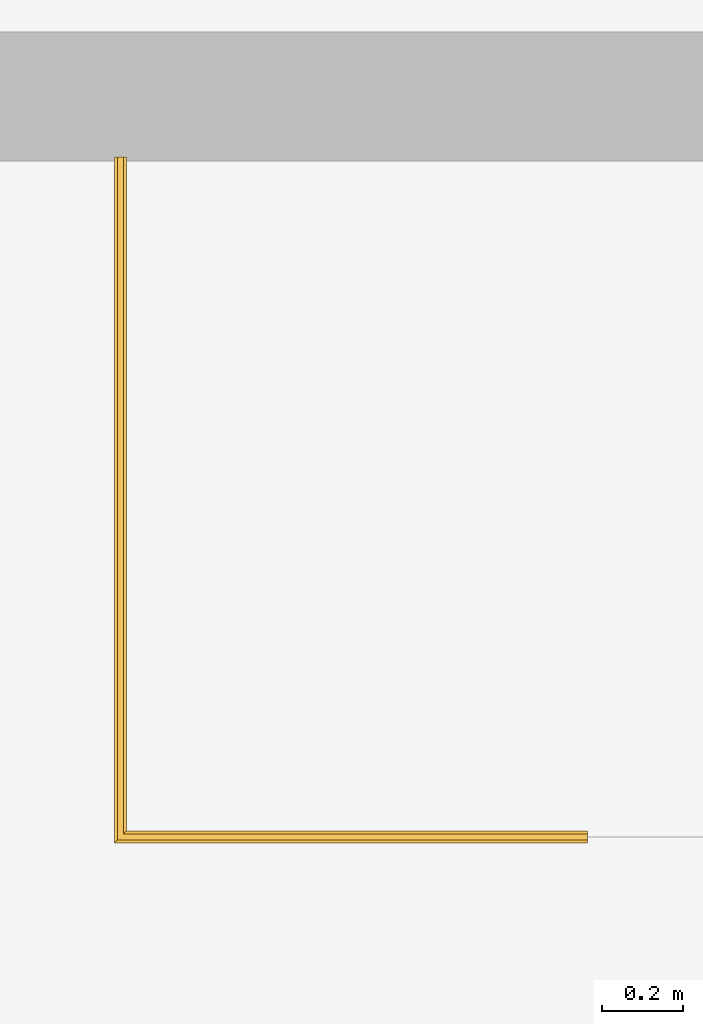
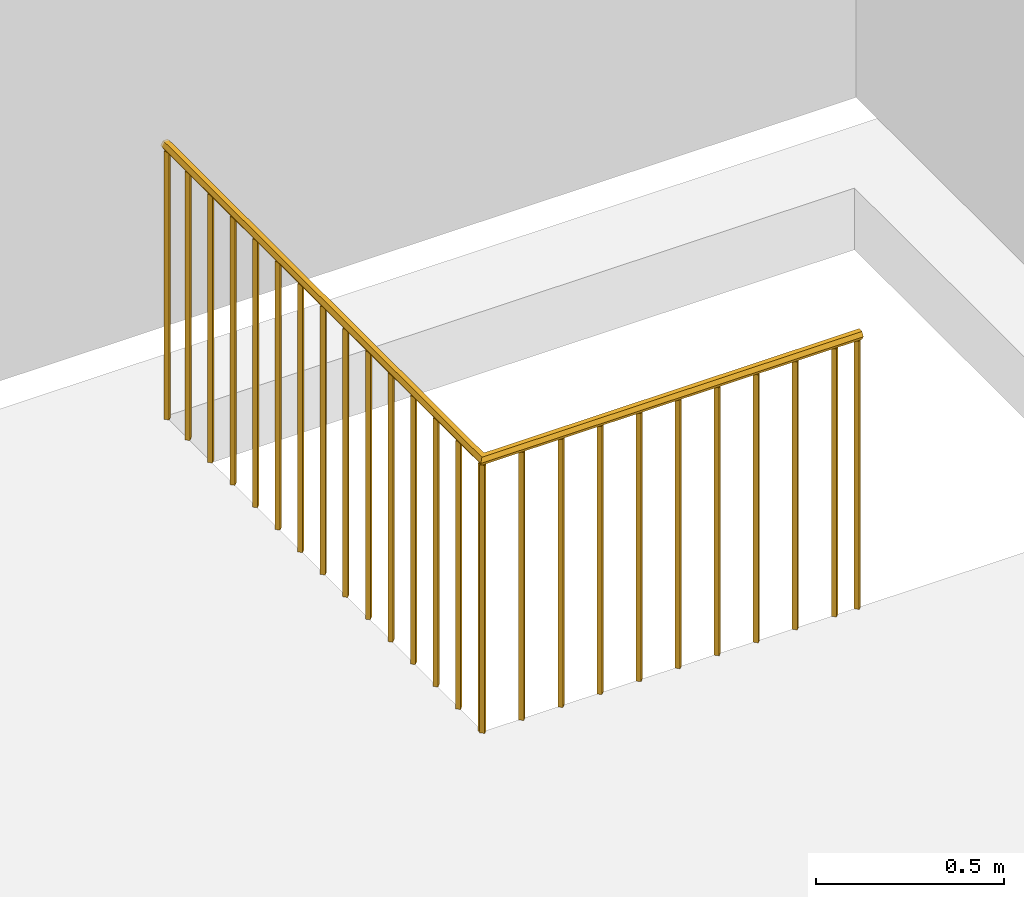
# One storey, part 2 of 3: 1 railing.
"""IFC2X3 building model written with IfcOpenShell, lengths in millimetres."""

from ifc_helpers import new_model, entity, si_unit, converted_unit, derived_unit, direction, frame, origin, place, context, subcontext, project, spatial, faceted_brep, material, material_list, element, save


model = new_model("IFC2X3")

# Units and contexts
model_context = context("Model", 3, precision=0.01, world=origin(), true_north=direction((6.123031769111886e-17, 1.0)))
body_context = subcontext(model_context, "Body", "Model", "MODEL_VIEW")
ifc_project = project(units=[si_unit("LENGTHUNIT", "METRE", prefix="MILLI"), si_unit("AREAUNIT", "SQUARE_METRE"), si_unit("VOLUMEUNIT", "CUBIC_METRE"), converted_unit("PLANEANGLEUNIT", "DEGREE", entity("IfcRatioMeasure", 0.017453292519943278), si_unit("PLANEANGLEUNIT", "RADIAN"), dimensions=[0, 0, 0, 0, 0, 0, 0]), si_unit("MASSUNIT", "GRAM", prefix="KILO"), derived_unit("MASSDENSITYUNIT", [(si_unit("MASSUNIT", "GRAM", prefix="KILO"), 1), (si_unit("LENGTHUNIT", "METRE"), -3)]), derived_unit("IONCONCENTRATIONUNIT", [(si_unit("MASSUNIT", "GRAM", prefix="KILO"), 1), (si_unit("LENGTHUNIT", "METRE"), -3)]), derived_unit("MOMENTOFINERTIAUNIT", [(si_unit("LENGTHUNIT", "METRE"), 4)]), si_unit("TIMEUNIT", "SECOND"), si_unit("FREQUENCYUNIT", "HERTZ"), si_unit("THERMODYNAMICTEMPERATUREUNIT", "DEGREE_CELSIUS"), derived_unit("THERMALTRANSMITTANCEUNIT", [(si_unit("MASSUNIT", "GRAM", prefix="KILO"), 1), (si_unit("THERMODYNAMICTEMPERATUREUNIT", "KELVIN"), -1), (si_unit("TIMEUNIT", "SECOND"), -3)]), derived_unit("THERMALCONDUCTANCEUNIT", [(si_unit("MASSUNIT", "GRAM", prefix="KILO"), 1), (si_unit("THERMODYNAMICTEMPERATUREUNIT", "KELVIN"), -1), (si_unit("TIMEUNIT", "SECOND"), -3), (si_unit("LENGTHUNIT", "METRE"), 1)]), derived_unit("VOLUMETRICFLOWRATEUNIT", [(si_unit("LENGTHUNIT", "METRE"), 3), (si_unit("TIMEUNIT", "SECOND"), -1)]), derived_unit("MASSFLOWRATEUNIT", [(si_unit("MASSUNIT", "GRAM", prefix="KILO"), 1), (si_unit("TIMEUNIT", "SECOND"), -1)]), derived_unit("ROTATIONALFREQUENCYUNIT", [(si_unit("TIMEUNIT", "SECOND"), -1)]), si_unit("ELECTRICCURRENTUNIT", "AMPERE"), si_unit("ELECTRICVOLTAGEUNIT", "VOLT"), si_unit("POWERUNIT", "WATT"), si_unit("FORCEUNIT", "NEWTON", prefix="KILO"), si_unit("ILLUMINANCEUNIT", "LUX"), si_unit("LUMINOUSFLUXUNIT", "LUMEN"), si_unit("LUMINOUSINTENSITYUNIT", "CANDELA"), derived_unit("USERDEFINED", [(si_unit("MASSUNIT", "GRAM", prefix="KILO"), -1), (si_unit("LENGTHUNIT", "METRE"), -2), (si_unit("TIMEUNIT", "SECOND"), 3), (si_unit("LUMINOUSFLUXUNIT", "LUMEN"), 1)]), derived_unit("USERDEFINED", [(si_unit("MASSUNIT", "GRAM", prefix="KILO"), 1), (si_unit("TIMEUNIT", "SECOND"), -3), (si_unit("LENGTHUNIT", "METRE"), 3), (si_unit("ELECTRICCURRENTUNIT", "AMPERE"), -2)]), derived_unit("SOUNDPOWERUNIT", [(si_unit("MASSUNIT", "GRAM", prefix="KILO"), 1), (si_unit("TIMEUNIT", "SECOND"), -3), (si_unit("LENGTHUNIT", "METRE"), 2)]), derived_unit("SOUNDPRESSUREUNIT", [(si_unit("MASSUNIT", "GRAM", prefix="KILO"), 1), (si_unit("LENGTHUNIT", "METRE"), -1), (si_unit("TIMEUNIT", "SECOND"), -2)]), derived_unit("LINEARVELOCITYUNIT", [(si_unit("LENGTHUNIT", "METRE"), 1), (si_unit("TIMEUNIT", "SECOND"), -1)]), si_unit("PRESSUREUNIT", "PASCAL"), derived_unit("USERDEFINED", [(si_unit("MASSUNIT", "GRAM", prefix="KILO"), 1), (si_unit("LENGTHUNIT", "METRE"), -2), (si_unit("TIMEUNIT", "SECOND"), -2)]), derived_unit("LINEARFORCEUNIT", [(si_unit("MASSUNIT", "GRAM", prefix="KILO"), 1), (si_unit("TIMEUNIT", "SECOND"), -2)]), derived_unit("PLANARFORCEUNIT", [(si_unit("MASSUNIT", "GRAM", prefix="KILO"), 1), (si_unit("LENGTHUNIT", "METRE"), -1), (si_unit("TIMEUNIT", "SECOND"), -2)]), derived_unit("SPECIFICHEATCAPACITYUNIT", [(si_unit("THERMODYNAMICTEMPERATUREUNIT", "KELVIN"), -1), (si_unit("LENGTHUNIT", "METRE"), 2), (si_unit("TIMEUNIT", "SECOND"), -2)]), derived_unit("HEATINGVALUEUNIT", [(si_unit("LENGTHUNIT", "METRE"), 2), (si_unit("TIMEUNIT", "SECOND"), -2)]), derived_unit("VAPORPERMEABILITYUNIT", [(si_unit("LENGTHUNIT", "METRE"), -1), (si_unit("TIMEUNIT", "SECOND"), 1)]), derived_unit("DYNAMICVISCOSITYUNIT", [(si_unit("MASSUNIT", "GRAM", prefix="KILO"), 1), (si_unit("TIMEUNIT", "SECOND"), -1), (si_unit("LENGTHUNIT", "METRE"), -1)]), derived_unit("THERMALEXPANSIONCOEFFICIENTUNIT", [(si_unit("THERMODYNAMICTEMPERATUREUNIT", "KELVIN"), -1)]), derived_unit("MODULUSOFELASTICITYUNIT", [(si_unit("MASSUNIT", "GRAM", prefix="KILO"), 1), (si_unit("LENGTHUNIT", "METRE"), -1), (si_unit("TIMEUNIT", "SECOND"), -2)]), derived_unit("ISOTHERMALMOISTURECAPACITYUNIT", [(si_unit("LENGTHUNIT", "METRE"), 3), (si_unit("MASSUNIT", "GRAM", prefix="KILO"), -1)]), derived_unit("MOISTUREDIFFUSIVITYUNIT", [(si_unit("TIMEUNIT", "SECOND"), -1), (si_unit("LENGTHUNIT", "METRE"), 2)])], contexts=[model_context])

# Site, building, storey
site_placement = place(None, origin())
site = spatial("IfcSite", under=ifc_project, at=site_placement, Name="IFCSITE", CompositionType="ELEMENT")
building_placement = place(site_placement, origin())
building = spatial("IfcBuilding", under=site, at=building_placement, CompositionType="ELEMENT")
storey_placement = place(building_placement, frame((0.0, 0.0, 4200.0)))
storey = spatial("IfcBuildingStorey", under=building, at=storey_placement, Name="Plan 1 pumpehus", CompositionType="ELEMENT", Elevation=4200.0)

# Railing
ifc_material_1 = material(Name="<Unnamed>")
ifc_material_2 = material(Name="Tre")
ifc_material_list = material_list([ifc_material_1, ifc_material_2])
railing_placement = place(storey_placement, frame((-57619.10865115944, -11683.757686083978, 0.0)))
element("IfcRailing", 1, at=railing_placement, inside=storey, material=ifc_material_list, Name="Railing:900mm Stål Ø30 cc120", ObjectType="Railing:900mm Stål Ø30 cc120", PredefinedType="NOTDEFINED", context=body_context, shape_type="Brep", body=[
    faceted_brep([(1096.5952722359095, 6.595272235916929, 0.0), (1106.5952722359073, 16.59527223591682, 0.0), (1106.5952722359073, 16.59527223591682, 870.0), (1096.5952722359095, 6.595272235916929, 870.0), (1096.5952722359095, 26.595272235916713, 0.0), (1096.5952722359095, 26.595272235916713, 870.0), (1086.5952722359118, 16.59527223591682, 870.0), (1086.5952722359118, 16.59527223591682, 0.0)], [[[0, 1, 2, 3]], [[2, 1, 4, 5]], [[6, 5, 4, 7]], [[6, 7, 0, 3]], [[3, 2, 5, 6]], [[0, 7, 4, 1]]]),
    faceted_brep([(976.5952722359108, 6.5952722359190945, 0.0), (986.5952722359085, 16.595272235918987, 0.0), (986.5952722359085, 16.595272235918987, 870.0), (976.5952722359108, 6.5952722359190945, 870.0), (976.5952722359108, 26.59527223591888, 0.0), (976.5952722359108, 26.59527223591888, 870.0), (966.5952722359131, 16.595272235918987, 870.0), (966.5952722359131, 16.595272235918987, 0.0)], [[[0, 1, 2, 3]], [[2, 1, 4, 5]], [[6, 5, 4, 7]], [[6, 7, 0, 3]], [[3, 2, 5, 6]], [[0, 7, 4, 1]]]),
    faceted_brep([(856.5952722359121, 6.5952722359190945, 0.0), (866.5952722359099, 16.595272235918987, 0.0), (866.5952722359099, 16.595272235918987, 870.0), (856.5952722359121, 6.5952722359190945, 870.0), (856.5952722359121, 26.59527223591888, 0.0), (856.5952722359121, 26.59527223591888, 870.0), (846.5952722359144, 16.595272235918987, 870.0), (846.5952722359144, 16.595272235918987, 0.0)], [[[0, 1, 2, 3]], [[2, 1, 4, 5]], [[6, 5, 4, 7]], [[6, 7, 0, 3]], [[3, 2, 5, 6]], [[0, 7, 4, 1]]]),
    faceted_brep([(736.5952722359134, 6.5952722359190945, 0.0), (746.5952722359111, 16.595272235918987, 0.0), (746.5952722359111, 16.595272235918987, 870.0), (736.5952722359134, 6.5952722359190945, 870.0), (736.5952722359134, 26.59527223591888, 0.0), (736.5952722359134, 26.59527223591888, 870.0), (726.5952722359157, 16.595272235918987, 870.0), (726.5952722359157, 16.595272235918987, 0.0)], [[[0, 1, 2, 3]], [[2, 1, 4, 5]], [[6, 5, 4, 7]], [[6, 7, 0, 3]], [[3, 2, 5, 6]], [[0, 7, 4, 1]]]),
    faceted_brep([(616.5952722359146, 6.5952722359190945, 0.0), (626.5952722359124, 16.595272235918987, 0.0), (626.5952722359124, 16.595272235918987, 870.0), (616.5952722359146, 6.5952722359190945, 870.0), (616.5952722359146, 26.59527223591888, 0.0), (616.5952722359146, 26.59527223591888, 870.0), (606.5952722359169, 16.595272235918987, 870.0), (606.5952722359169, 16.595272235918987, 0.0)], [[[0, 1, 2, 3]], [[2, 1, 4, 5]], [[6, 5, 4, 7]], [[6, 7, 0, 3]], [[3, 2, 5, 6]], [[0, 7, 4, 1]]]),
    faceted_brep([(496.595272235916, 6.5952722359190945, 0.0), (506.59527223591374, 16.595272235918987, 0.0), (506.59527223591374, 16.595272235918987, 870.0), (496.595272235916, 6.5952722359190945, 870.0), (496.595272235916, 26.59527223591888, 0.0), (496.595272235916, 26.59527223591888, 870.0), (486.5952722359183, 16.595272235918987, 870.0), (486.5952722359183, 16.595272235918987, 0.0)], [[[0, 1, 2, 3]], [[2, 1, 4, 5]], [[6, 5, 4, 7]], [[6, 7, 0, 3]], [[3, 2, 5, 6]], [[0, 7, 4, 1]]]),
    faceted_brep([(376.5952722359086, 6.5952722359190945, 0.0), (386.59527223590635, 16.595272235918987, 0.0), (386.59527223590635, 16.595272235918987, 870.0), (376.5952722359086, 6.5952722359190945, 870.0), (376.5952722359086, 26.59527223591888, 0.0), (376.5952722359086, 26.59527223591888, 870.0), (366.5952722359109, 16.595272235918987, 870.0), (366.5952722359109, 16.595272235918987, 0.0)], [[[0, 1, 2, 3]], [[2, 1, 4, 5]], [[6, 5, 4, 7]], [[6, 7, 0, 3]], [[3, 2, 5, 6]], [[0, 7, 4, 1]]]),
    faceted_brep([(256.59527223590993, 6.59527223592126, 0.0), (266.59527223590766, 16.595272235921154, 0.0), (266.59527223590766, 16.595272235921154, 870.0), (256.59527223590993, 6.59527223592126, 870.0), (256.59527223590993, 26.595272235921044, 0.0), (256.59527223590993, 26.595272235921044, 870.0), (246.59527223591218, 16.595272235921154, 870.0), (246.59527223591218, 16.595272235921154, 0.0)], [[[0, 1, 2, 3]], [[2, 1, 4, 5]], [[6, 5, 4, 7]], [[6, 7, 0, 3]], [[3, 2, 5, 6]], [[0, 7, 4, 1]]]),
    faceted_brep([(136.5952722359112, 6.59527223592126, 0.0), (146.59527223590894, 16.595272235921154, 0.0), (146.59527223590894, 16.595272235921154, 870.0), (136.5952722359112, 6.59527223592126, 870.0), (136.5952722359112, 26.595272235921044, 0.0), (136.5952722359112, 26.595272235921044, 870.0), (126.59527223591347, 16.595272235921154, 870.0), (126.59527223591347, 16.595272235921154, 0.0)], [[[0, 1, 2, 3]], [[2, 1, 4, 5]], [[6, 5, 4, 7]], [[6, 7, 0, 3]], [[3, 2, 5, 6]], [[0, 7, 4, 1]]]),
    faceted_brep([(6.595272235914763, 24.832515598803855, 0.0), (16.59527223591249, 14.832515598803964, 0.0), (16.59527223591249, 14.832515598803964, 870.0), (6.595272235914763, 24.832515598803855, 870.0), (26.595272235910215, 24.832515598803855, 0.0), (26.595272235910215, 24.832515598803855, 870.0), (16.59527223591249, 34.832515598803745, 870.0), (16.59527223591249, 34.832515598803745, 0.0)], [[[0, 1, 2, 3]], [[2, 1, 4, 5]], [[6, 5, 4, 7]], [[6, 7, 0, 3]], [[3, 2, 5, 6]], [[0, 7, 4, 1]]]),
    faceted_brep([(6.595272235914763, 144.83251559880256, 0.0), (16.59527223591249, 134.83251559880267, 0.0), (16.59527223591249, 134.83251559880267, 870.0), (6.595272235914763, 144.83251559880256, 870.0), (26.595272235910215, 144.83251559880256, 0.0), (26.595272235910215, 144.83251559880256, 870.0), (16.59527223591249, 154.83251559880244, 870.0), (16.59527223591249, 154.83251559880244, 0.0)], [[[0, 1, 2, 3]], [[2, 1, 4, 5]], [[6, 5, 4, 7]], [[6, 7, 0, 3]], [[3, 2, 5, 6]], [[0, 7, 4, 1]]]),
    faceted_brep([(6.595272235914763, 264.8325155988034, 0.0), (16.59527223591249, 254.83251559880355, 0.0), (16.59527223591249, 254.83251559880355, 870.0), (6.595272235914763, 264.8325155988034, 870.0), (26.595272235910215, 264.8325155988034, 0.0), (26.595272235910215, 264.8325155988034, 870.0), (16.59527223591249, 274.83251559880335, 870.0), (16.59527223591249, 274.83251559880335, 0.0)], [[[0, 1, 2, 3]], [[2, 1, 4, 5]], [[6, 5, 4, 7]], [[6, 7, 0, 3]], [[3, 2, 5, 6]], [[0, 7, 4, 1]]]),
    faceted_brep([(6.595272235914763, 384.8325155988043, 0.0), (16.59527223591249, 374.83251559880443, 0.0), (16.59527223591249, 374.83251559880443, 870.0), (6.595272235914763, 384.8325155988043, 870.0), (26.595272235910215, 384.8325155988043, 0.0), (26.595272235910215, 384.8325155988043, 870.0), (16.59527223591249, 394.8325155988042, 870.0), (16.59527223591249, 394.8325155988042, 0.0)], [[[0, 1, 2, 3]], [[2, 1, 4, 5]], [[6, 5, 4, 7]], [[6, 7, 0, 3]], [[3, 2, 5, 6]], [[0, 7, 4, 1]]]),
    faceted_brep([(6.595272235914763, 504.832515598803, 0.0), (16.59527223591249, 494.8325155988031, 0.0), (16.59527223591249, 494.8325155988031, 870.0), (6.595272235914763, 504.832515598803, 870.0), (26.595272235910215, 504.832515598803, 0.0), (26.595272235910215, 504.832515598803, 870.0), (16.59527223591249, 514.832515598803, 870.0), (16.59527223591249, 514.832515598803, 0.0)], [[[0, 1, 2, 3]], [[2, 1, 4, 5]], [[6, 5, 4, 7]], [[6, 7, 0, 3]], [[3, 2, 5, 6]], [[0, 7, 4, 1]]]),
    faceted_brep([(6.595272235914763, 624.8325155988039, 0.0), (16.59527223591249, 614.832515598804, 0.0), (16.59527223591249, 614.832515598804, 870.0), (6.595272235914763, 624.8325155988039, 870.0), (26.595272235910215, 624.8325155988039, 0.0), (26.595272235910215, 624.8325155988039, 870.0), (16.59527223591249, 634.8325155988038, 870.0), (16.59527223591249, 634.8325155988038, 0.0)], [[[0, 1, 2, 3]], [[2, 1, 4, 5]], [[6, 5, 4, 7]], [[6, 7, 0, 3]], [[3, 2, 5, 6]], [[0, 7, 4, 1]]]),
    faceted_brep([(6.595272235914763, 744.8325155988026, 0.0), (16.59527223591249, 734.8325155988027, 0.0), (16.59527223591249, 734.8325155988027, 870.0), (6.595272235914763, 744.8325155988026, 870.0), (26.595272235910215, 744.8325155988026, 0.0), (26.595272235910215, 744.8325155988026, 870.0), (16.59527223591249, 754.8325155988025, 870.0), (16.59527223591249, 754.8325155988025, 0.0)], [[[0, 1, 2, 3]], [[2, 1, 4, 5]], [[6, 5, 4, 7]], [[6, 7, 0, 3]], [[3, 2, 5, 6]], [[0, 7, 4, 1]]]),
    faceted_brep([(6.595272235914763, 864.8325155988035, 0.0), (16.59527223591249, 854.8325155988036, 0.0), (16.59527223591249, 854.8325155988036, 870.0), (6.595272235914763, 864.8325155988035, 870.0), (26.595272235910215, 864.8325155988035, 0.0), (26.595272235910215, 864.8325155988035, 870.0), (16.59527223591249, 874.8325155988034, 870.0), (16.59527223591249, 874.8325155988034, 0.0)], [[[0, 1, 2, 3]], [[2, 1, 4, 5]], [[6, 5, 4, 7]], [[6, 7, 0, 3]], [[3, 2, 5, 6]], [[0, 7, 4, 1]]]),
    faceted_brep([(6.595272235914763, 984.8325155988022, 0.0), (16.59527223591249, 974.8325155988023, 0.0), (16.59527223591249, 974.8325155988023, 870.0), (6.595272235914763, 984.8325155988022, 870.0), (26.595272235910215, 984.8325155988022, 0.0), (26.595272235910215, 984.8325155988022, 870.0), (16.59527223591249, 994.832515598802, 870.0), (16.59527223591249, 994.832515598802, 0.0)], [[[0, 1, 2, 3]], [[2, 1, 4, 5]], [[6, 5, 4, 7]], [[6, 7, 0, 3]], [[3, 2, 5, 6]], [[0, 7, 4, 1]]]),
    faceted_brep([(6.595272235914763, 1104.832515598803, 0.0), (16.59527223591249, 1094.8325155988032, 0.0), (16.59527223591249, 1094.8325155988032, 870.0), (6.595272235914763, 1104.832515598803, 870.0), (26.595272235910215, 1104.832515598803, 0.0), (26.595272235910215, 1104.832515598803, 870.0), (16.59527223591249, 1114.832515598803, 870.0), (16.59527223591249, 1114.832515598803, 0.0)], [[[0, 1, 2, 3]], [[2, 1, 4, 5]], [[6, 5, 4, 7]], [[6, 7, 0, 3]], [[3, 2, 5, 6]], [[0, 7, 4, 1]]]),
    faceted_brep([(6.595272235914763, 1224.8325155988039, 0.0), (16.59527223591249, 1214.832515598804, 0.0), (16.59527223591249, 1214.832515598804, 870.0), (6.595272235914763, 1224.8325155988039, 870.0), (26.595272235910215, 1224.8325155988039, 0.0), (26.595272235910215, 1224.8325155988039, 870.0), (16.59527223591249, 1234.8325155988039, 870.0), (16.59527223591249, 1234.8325155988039, 0.0)], [[[0, 1, 2, 3]], [[2, 1, 4, 5]], [[6, 5, 4, 7]], [[6, 7, 0, 3]], [[3, 2, 5, 6]], [[0, 7, 4, 1]]]),
    faceted_brep([(6.595272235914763, 1344.8325155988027, 0.0), (16.59527223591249, 1334.8325155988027, 0.0), (16.59527223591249, 1334.8325155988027, 870.0), (6.595272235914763, 1344.8325155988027, 870.0), (26.595272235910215, 1344.8325155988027, 0.0), (26.595272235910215, 1344.8325155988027, 870.0), (16.59527223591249, 1354.8325155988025, 870.0), (16.59527223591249, 1354.8325155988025, 0.0)], [[[0, 1, 2, 3]], [[2, 1, 4, 5]], [[6, 5, 4, 7]], [[6, 7, 0, 3]], [[3, 2, 5, 6]], [[0, 7, 4, 1]]]),
    faceted_brep([(6.595272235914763, 1464.8325155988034, 0.0), (16.59527223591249, 1454.8325155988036, 0.0), (16.59527223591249, 1454.8325155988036, 870.0), (6.595272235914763, 1464.8325155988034, 870.0), (26.595272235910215, 1464.8325155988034, 0.0), (26.595272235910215, 1464.8325155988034, 870.0), (16.59527223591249, 1474.8325155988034, 870.0), (16.59527223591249, 1474.8325155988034, 0.0)], [[[0, 1, 2, 3]], [[2, 1, 4, 5]], [[6, 5, 4, 7]], [[6, 7, 0, 3]], [[3, 2, 5, 6]], [[0, 7, 4, 1]]]),
    faceted_brep([(6.595272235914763, 1584.8325155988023, 0.0), (16.59527223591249, 1574.8325155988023, 0.0), (16.59527223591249, 1574.8325155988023, 870.0), (6.595272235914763, 1584.8325155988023, 870.0), (26.595272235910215, 1584.8325155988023, 0.0), (26.595272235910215, 1584.8325155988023, 870.0), (16.59527223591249, 1594.832515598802, 870.0), (16.59527223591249, 1594.832515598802, 0.0)], [[[0, 1, 2, 3]], [[2, 1, 4, 5]], [[6, 5, 4, 7]], [[6, 7, 0, 3]], [[3, 2, 5, 6]], [[0, 7, 4, 1]]]),
    faceted_brep([(6.595272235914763, 16.595272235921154, 0.0), (16.59527223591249, 6.59527223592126, 0.0), (16.59527223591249, 6.59527223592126, 870.0), (6.595272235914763, 16.595272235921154, 870.0), (26.595272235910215, 16.595272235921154, 0.0), (26.595272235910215, 16.595272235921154, 870.0), (16.59527223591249, 26.595272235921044, 870.0), (16.59527223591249, 26.595272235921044, 0.0)], [[[0, 1, 2, 3]], [[2, 1, 4, 5]], [[6, 5, 4, 7]], [[6, 7, 0, 3]], [[3, 2, 5, 6]], [[0, 7, 4, 1]]]),
    faceted_brep([(1166.595272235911, 6.595272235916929, 0.0), (1176.5952722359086, 16.59527223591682, 0.0), (1176.5952722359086, 16.59527223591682, 870.0), (1166.595272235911, 6.595272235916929, 870.0), (1166.595272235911, 26.595272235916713, 0.0), (1166.595272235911, 26.595272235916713, 870.0), (1156.5952722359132, 16.59527223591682, 870.0), (1156.5952722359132, 16.59527223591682, 0.0)], [[[0, 1, 2, 3]], [[2, 1, 4, 5]], [[6, 5, 4, 7]], [[6, 7, 0, 3]], [[3, 2, 5, 6]], [[0, 7, 4, 1]]]),
    faceted_brep([(6.595272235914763, 1694.8325155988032, 0.0), (16.59527223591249, 1684.8325155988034, 0.0), (16.59527223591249, 1684.8325155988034, 870.0), (6.595272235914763, 1694.8325155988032, 870.0), (26.595272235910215, 1694.8325155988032, 0.0), (26.595272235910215, 1694.8325155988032, 870.0), (16.59527223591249, 1704.8325155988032, 870.0), (16.59527223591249, 1704.8325155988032, 0.0)], [[[0, 1, 2, 3]], [[2, 1, 4, 5]], [[6, 5, 4, 7]], [[6, 7, 0, 3]], [[3, 2, 5, 6]], [[0, 7, 4, 1]]]),
    faceted_brep([(24.095272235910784, 1704.8325155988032, 897.9903810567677), (25.970272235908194, 1704.8325155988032, 894.742785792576), (27.8452722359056, 1704.8325155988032, 891.4951905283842), (30.007318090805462, 1704.8325155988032, 887.7504172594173), (31.59527223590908, 1704.8325155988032, 885.0), (30.0073180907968, 1704.8325155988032, 882.2495827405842), (28.41936394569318, 1704.8325155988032, 879.4991654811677), (26.25731809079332, 1704.8325155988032, 875.7543922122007), (24.095272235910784, 1704.8325155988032, 872.0096189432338), (20.345272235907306, 1704.8325155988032, 872.0096189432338), (16.59527223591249, 1704.8325155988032, 872.0096189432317), (12.845272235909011, 1704.8325155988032, 872.0096189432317), (9.095272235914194, 1704.8325155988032, 872.0096189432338), (7.220272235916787, 1704.8325155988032, 875.2572142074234), (5.345272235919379, 1704.8325155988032, 878.5048094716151), (3.4702722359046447, 1704.8325155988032, 881.752404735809), (1.5952722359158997, 1704.8325155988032, 885.0), (3.4702722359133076, 1704.8325155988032, 888.2475952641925), (5.345272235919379, 1704.8325155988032, 891.4951905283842), (7.220272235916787, 1704.8325155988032, 894.742785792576), (9.095272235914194, 1704.8325155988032, 897.9903810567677), (12.845272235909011, 1704.8325155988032, 897.9903810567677), (16.59527223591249, 1704.8325155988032, 897.9903810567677), (20.345272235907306, 1704.8325155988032, 897.9903810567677), (31.59527223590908, 31.595272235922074, 885.0), (29.720272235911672, 29.720272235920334, 881.752404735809), (29.29343690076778, 29.29343690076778, 881.0131042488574), (27.8452722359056, 27.84527223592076, 878.5048094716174), (25.970272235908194, 25.970272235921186, 875.2572142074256), (24.095272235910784, 24.09527223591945, 872.0096189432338), (16.59527223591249, 16.595272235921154, 872.0096189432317), (20.345272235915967, 20.3452722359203, 872.0096189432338), (1176.5952722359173, 20.345272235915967, 872.0096189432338), (1176.5952722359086, 24.09527223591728, 872.0096189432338), (1176.5952722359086, 16.59527223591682, 872.0096189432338), (1176.5952722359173, 12.845272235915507, 872.0096189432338), (12.845272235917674, 12.845272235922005, 872.0096189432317), (1176.5952722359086, 9.09527223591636, 872.0096189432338), (9.095272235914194, 9.095272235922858, 872.0096189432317), (7.220272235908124, 7.220272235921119, 875.2572142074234), (6.933224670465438, 6.933224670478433, 875.7543951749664), (5.345272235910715, 5.345272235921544, 878.5048094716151), (4.771177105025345, 4.771177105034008, 879.4991714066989), (3.8971075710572, 3.8971075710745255, 881.0131042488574), (3.183224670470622, 3.1832246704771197, 882.2495857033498), (1.5952722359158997, 1.5952722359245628, 885.0), (24.095272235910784, 24.09527223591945, 897.9903810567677), (20.345272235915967, 20.3452722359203, 897.9903810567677), (1176.5952722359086, 20.345272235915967, 897.9903810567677), (1176.5952722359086, 24.09527223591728, 897.9903810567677), (16.59527223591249, 16.595272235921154, 897.9903810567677), (12.845272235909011, 12.845272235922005, 897.9903810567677), (9.095272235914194, 9.095272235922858, 897.9903810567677), (1176.5952722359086, 9.09527223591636, 897.9903810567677), (1176.5952722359, 12.845272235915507, 897.9903810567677), (1176.5952722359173, 16.59527223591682, 897.9903810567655), (29.720272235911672, 29.72027223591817, 888.2475952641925), (25.970272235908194, 25.970272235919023, 894.742785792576), (27.8452722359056, 27.845272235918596, 891.4951905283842), (3.1832246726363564, 3.1832246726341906, 887.750414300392), (3.8971075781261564, 3.897107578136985, 888.9868957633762), (5.345272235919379, 5.345272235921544, 891.4951905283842), (6.198942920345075, 6.198942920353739, 892.9737915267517), (7.220272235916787, 7.220272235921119, 894.742785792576), (7.647107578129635, 7.647107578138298, 895.4820862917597), (1176.5952722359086, 3.4702722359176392, 881.752404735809), (1176.5952722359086, 5.345272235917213, 878.5048094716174), (1176.5952722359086, 7.220272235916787, 875.2572142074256), (1176.5952722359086, 25.543431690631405, 874.5179046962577), (1176.5952722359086, 26.991591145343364, 877.0261904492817), (1176.5952722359, 29.293431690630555, 881.0130952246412), (1176.5952722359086, 31.595272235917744, 885.0), (1176.5952722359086, 29.29343169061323, 888.9869047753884), (1176.5952722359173, 27.845272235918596, 891.4951905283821), (1176.5952722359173, 25.970272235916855, 894.742785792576), (1176.5952722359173, 7.220272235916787, 894.742785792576), (1176.5952722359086, 5.345272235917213, 891.4951905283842), (1176.5952722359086, 3.4702722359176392, 888.2475952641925), (1176.5952722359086, 1.5952722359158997, 885.0)], [[[0, 1, 2, 3, 4, 5, 6, 7, 8, 9, 10, 11, 12, 13, 14, 15, 16, 17, 18, 19, 20, 21, 22, 23]], [[6, 5, 4, 24, 25, 26, 27, 28, 29, 8, 7]], [[10, 30, 11]], [[10, 31, 30]], [[31, 10, 9]], [[9, 29, 31]], [[9, 8, 29]], [[29, 32, 31]], [[33, 32, 29]], [[31, 32, 34]], [[34, 35, 30]], [[34, 30, 31]], [[36, 30, 35]], [[37, 36, 35]], [[36, 37, 38]], [[38, 12, 36]], [[36, 12, 11]], [[30, 36, 11]], [[13, 12, 38, 39, 40, 41, 42, 43, 44, 45, 16, 15, 14]], [[46, 23, 47]], [[46, 0, 23]], [[48, 46, 47]], [[49, 46, 48]], [[22, 47, 23]], [[50, 47, 22]], [[22, 21, 50]], [[50, 21, 51]], [[20, 51, 21]], [[20, 52, 51]], [[51, 52, 53]], [[51, 53, 54]], [[50, 54, 55]], [[54, 50, 51]], [[50, 55, 47]], [[55, 48, 47]], [[56, 24, 4, 3, 2, 1, 0, 46, 57, 58]], [[19, 18, 17, 16, 45, 59, 60, 61, 62, 63, 64, 52, 20]], [[65, 66, 67, 37, 35, 34, 32, 33, 68, 69, 70, 71, 72, 73, 74, 49, 48, 55, 54, 53, 75, 76, 77, 78]], [[26, 25, 24, 71, 70, 69, 68, 33, 29, 28, 27]], [[65, 78, 45, 44, 43, 42, 41, 40, 39, 38, 37, 67, 66]], [[71, 24, 56, 58, 57, 46, 49, 74, 73, 72]], [[62, 61, 60, 59, 45, 78, 77, 76, 75, 53, 52, 64, 63]]]),
])

save(model, "model.ifc")
